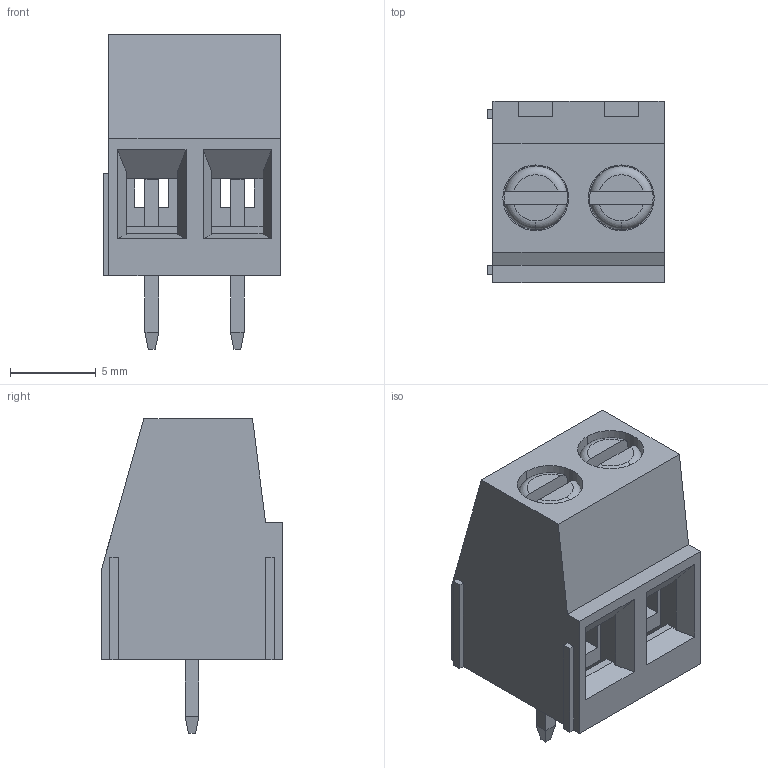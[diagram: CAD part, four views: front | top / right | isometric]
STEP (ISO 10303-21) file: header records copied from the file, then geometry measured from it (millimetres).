
FILE_DESCRIPTION (( 'STEP AP214' ), '1' );
FILE_NAME ('CONN-TH_P5.00_KF128-5.0-2P.step', '2022-08-02T18:40:21', ( '' ), ( '' ), 'SwSTEP 2.0', 'SolidWorks 2020', '' );
FILE_SCHEMA (( 'AUTOMOTIVE_DESIGN' ));
Length unit declared in the file: millimetre
Products named in the file (1): CONN-TH_P5.00_KF128-5.0-2P
Bounding box: 10.3 x 10.6 x 18.4 mm (x, y, z)
Volume: 785.4 mm3; surface area: 1848.5 mm2
Topology: 14 solids, 14 shells, 402 faces, 1096 edges, 726 vertices
Faces by surface type: plane 270, bspline 98, cylinder 28, torus 6
Entity records: 17635 total; most frequent: CARTESIAN_POINT 3583, ORIENTED_EDGE 2192, DIRECTION 1562, EDGE_CURVE 1096, VECTOR 816, LINE 816, VERTEX_POINT 726, EDGE_LOOP 434
